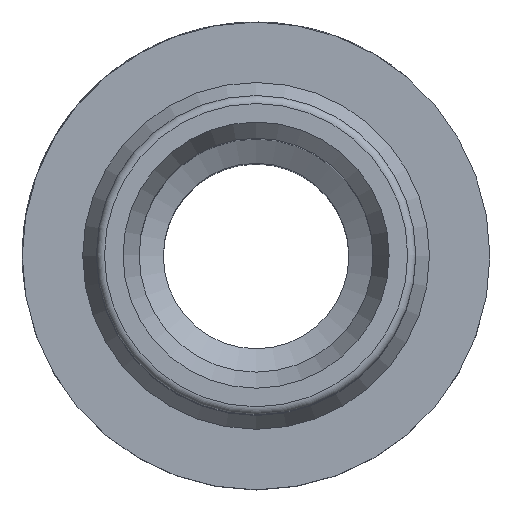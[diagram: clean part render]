
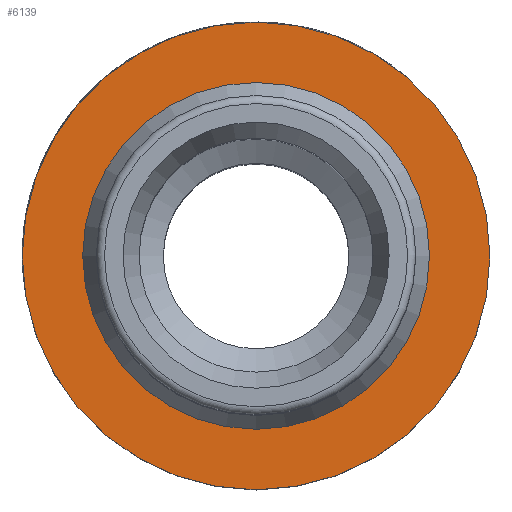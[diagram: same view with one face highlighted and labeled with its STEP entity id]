
A CAD part, top view. The second image highlights one B-rep face of the part: STEP entity #6139.
In plain terms, the highlighted planar face has unit normal (0, 0, 1).
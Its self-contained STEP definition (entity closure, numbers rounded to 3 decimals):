
#78=FACE_BOUND('',#1682,.T.);
#156=PLANE('',#6543);
#1308=FACE_OUTER_BOUND('',#1681,.T.);
#1681=EDGE_LOOP('',(#5704,#5705));
#1682=EDGE_LOOP('',(#5706,#5707));
#1765=CIRCLE('',#6310,14.5);
#1766=CIRCLE('',#6311,14.5);
#1925=CIRCLE('',#6541,10.4);
#1926=CIRCLE('',#6542,10.4);
#2785=VERTEX_POINT('',#13411);
#2786=VERTEX_POINT('',#13413);
#2935=VERTEX_POINT('',#13830);
#2936=VERTEX_POINT('',#13831);
#3666=EDGE_CURVE('',#2785,#2786,#1765,.T.);
#3667=EDGE_CURVE('',#2786,#2785,#1766,.T.);
#3863=EDGE_CURVE('',#2935,#2936,#1925,.T.);
#3864=EDGE_CURVE('',#2936,#2935,#1926,.T.);
#5704=ORIENTED_EDGE('',*,*,#3667,.F.);
#5705=ORIENTED_EDGE('',*,*,#3666,.F.);
#5706=ORIENTED_EDGE('',*,*,#3863,.T.);
#5707=ORIENTED_EDGE('',*,*,#3864,.T.);
#6139=ADVANCED_FACE('',(#1308,#78),#156,.T.);
#6310=AXIS2_PLACEMENT_3D('',#13414,#7127,#7128);
#6311=AXIS2_PLACEMENT_3D('',#13415,#7129,#7130);
#6541=AXIS2_PLACEMENT_3D('',#13832,#7626,#7627);
#6542=AXIS2_PLACEMENT_3D('',#13833,#7628,#7629);
#6543=AXIS2_PLACEMENT_3D('',#13835,#7631,#7632);
#7127=DIRECTION('center_axis',(0.,0.,-1.));
#7128=DIRECTION('ref_axis',(1.,0.,0.));
#7129=DIRECTION('center_axis',(0.,0.,-1.));
#7130=DIRECTION('ref_axis',(1.,0.,0.));
#7626=DIRECTION('center_axis',(0.,0.,-1.));
#7627=DIRECTION('ref_axis',(1.,0.,0.));
#7628=DIRECTION('center_axis',(0.,0.,-1.));
#7629=DIRECTION('ref_axis',(1.,0.,0.));
#7631=DIRECTION('center_axis',(0.,0.,1.));
#7632=DIRECTION('ref_axis',(1.,0.,0.));
#13411=CARTESIAN_POINT('',(0.,-14.5,35.));
#13413=CARTESIAN_POINT('',(0.,14.5,35.));
#13414=CARTESIAN_POINT('Origin',(0.,0.,35.));
#13415=CARTESIAN_POINT('Origin',(0.,0.,35.));
#13830=CARTESIAN_POINT('',(0.,10.4,35.));
#13831=CARTESIAN_POINT('',(0.,-10.4,35.));
#13832=CARTESIAN_POINT('Origin',(0.,0.,35.));
#13833=CARTESIAN_POINT('Origin',(0.,0.,35.));
#13835=CARTESIAN_POINT('Origin',(0.,14.5,35.));
